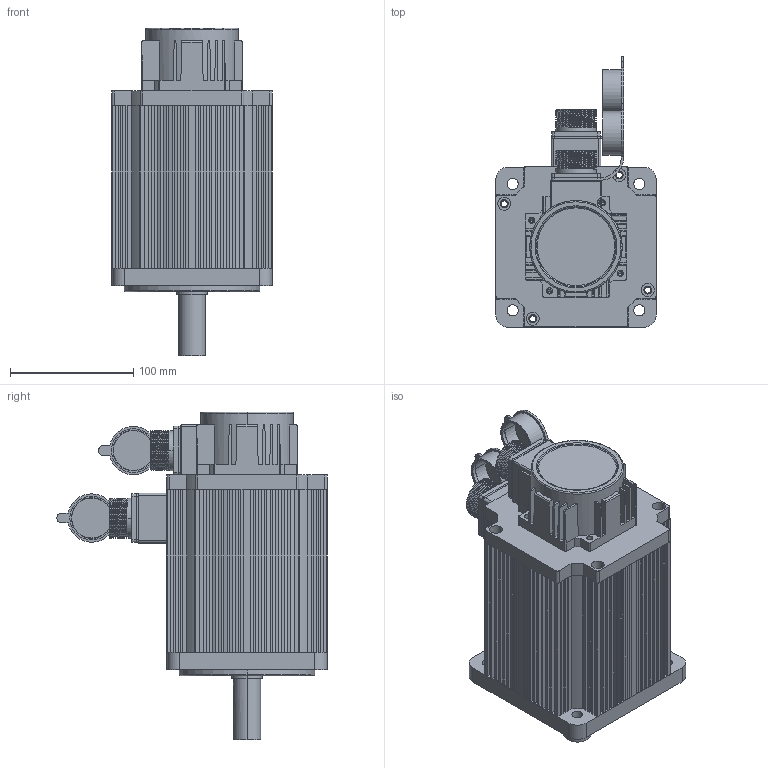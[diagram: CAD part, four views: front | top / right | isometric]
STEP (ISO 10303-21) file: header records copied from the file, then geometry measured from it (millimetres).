
FILE_DESCRIPTION (( 'STEP AP203' ), '1' );
FILE_NAME ('130 10N.M2500R.STEP', '2018-06-13T05:45:34', ( '微软用户' ), ( '微软中国' ), 'SwSTEP 2.0', 'SolidWorks 2016', '' );
FILE_SCHEMA (( 'CONFIG_CONTROL_DESIGN' ));
Length unit declared in the file: millimetre
Products named in the file (12): 130-4郋瑤脣釱; 130ヶ裔; 15郋瑤脣; 130綴裔; 15郋瑤脣釱; 晤鎢ん欶; 130 10N.M2500R; 130 6N.M粣; 130儂褲; 4郋瑤脣; 瑤脣價釱; 瑤脣々菜
Assembly tree (12 placements, depth 3):
  130 10N.M2500R
    130ヶ裔
    130綴裔
    晤鎢ん欶
    130 6N.M粣
    130儂褲
    130-4郋瑤脣釱
      4郋瑤脣
      瑤脣價釱
      瑤脣々菜
    15郋瑤脣釱
      15郋瑤脣
      瑤脣々菜
Bounding box: 130 x 219.29 x 266 mm (x, y, z)
Volume: 878333.8 mm3; surface area: 422046.3 mm2
Topology: 11 solids, 11 shells, 1351 faces, 3627 edges, 2338 vertices
Faces by surface type: plane 651, cylinder 590, sphere 36, cone 35, torus 31, bspline 8
Entity records: 45116 total; most frequent: CARTESIAN_POINT 11126, DIRECTION 6865, ORIENTED_EDGE 6842, EDGE_CURVE 3421, AXIS2_PLACEMENT_3D 2406, VERTEX_POINT 2238, LINE 2053, VECTOR 2053
